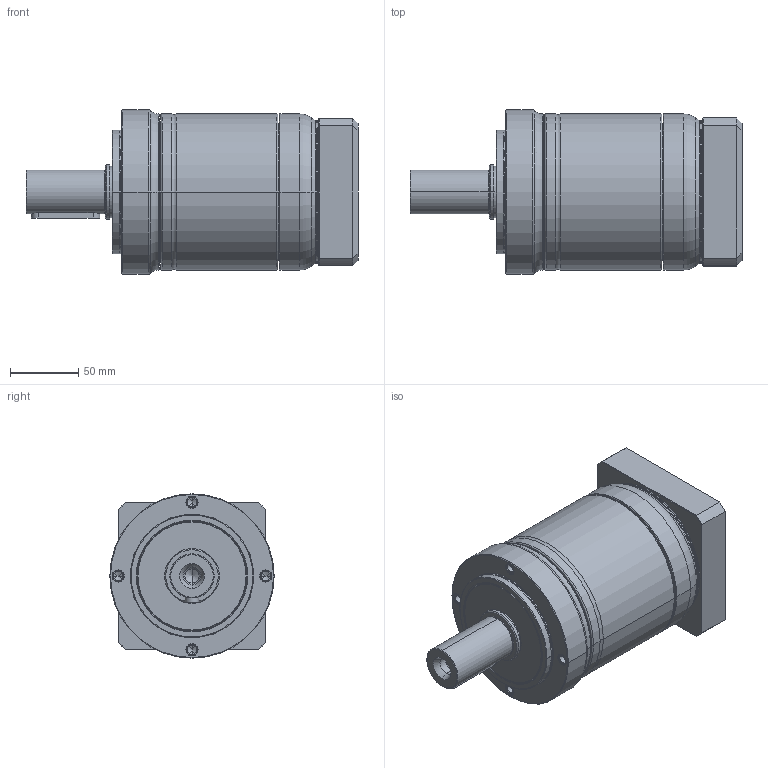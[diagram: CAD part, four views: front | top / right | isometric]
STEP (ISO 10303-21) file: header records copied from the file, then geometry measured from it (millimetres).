
FILE_DESCRIPTION((''),'2;1');
FILE_NAME('PE2-120_2ST_28-P0411600101_ASM','2016-05-03T',('d00435'),(''),'PRO/ENGINEER BY PARAMETRIC TECHNOLOGY CORPORATION, 2008410','PRO/ENGINEER BY PARAMETRIC TECHNOLOGY CORPORATION, 2008410','');
FILE_SCHEMA(('CONFIG_CONTROL_DESIGN'));
Length unit declared in the file: millimetre
Products named in the file (9): P1323410001; P0251400001; P1324400201; P0350401001; P0941402001; P0503600008; P0411600101; P1702500001; PE2-120_2ST_28-P0411600101_ASM
Assembly tree (8 placements, depth 2):
  PE2-120_2ST_28-P0411600101_ASM
    P1323410001
    P0251400001
    P1324400201
    P0350401001
    P0941402001
    P0503600008
    P0411600101
    P1702500001
Bounding box: 242.5 x 120 x 120 mm (x, y, z)
Volume: 1346867.9 mm3; surface area: 248983 mm2
Topology: 8 solids, 22 shells, 539 faces, 1201 edges, 708 vertices
Faces by surface type: cylinder 172, cone 148, torus 106, plane 97, bspline 16
Entity records: 19654 total; most frequent: CARTESIAN_POINT 7351, DIRECTION 2841, ORIENTED_EDGE 2274, AXIS2_PLACEMENT_3D 1229, EDGE_CURVE 1165, VERTEX_POINT 708, CIRCLE 679, EDGE_LOOP 621
